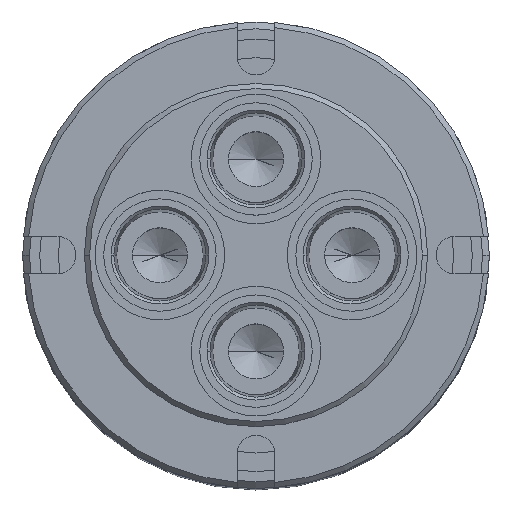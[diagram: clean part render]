
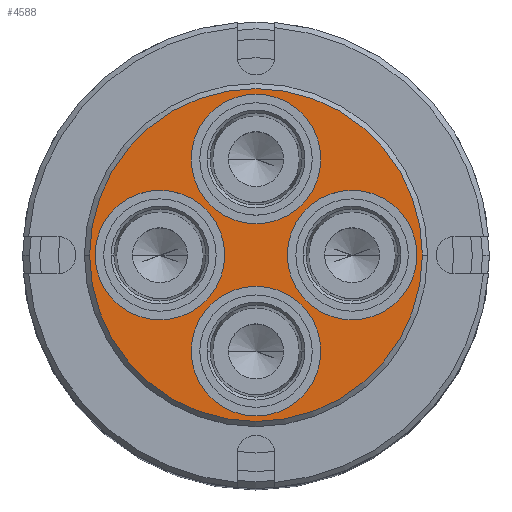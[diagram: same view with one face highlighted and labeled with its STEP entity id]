
A CAD part, top view. The second image highlights one B-rep face of the part: STEP entity #4588.
In plain terms, the highlighted planar face has unit normal (0, 0, 1).
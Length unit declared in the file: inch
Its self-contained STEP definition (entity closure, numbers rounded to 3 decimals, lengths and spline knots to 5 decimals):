
#26 = EDGE_LOOP ( 'NONE', ( #2220, #2219 ) ) ;
#27 = EDGE_LOOP ( 'NONE', ( #2218, #2217 ) ) ;
#28 = EDGE_LOOP ( 'NONE', ( #2224, #2223 ) ) ;
#30 = EDGE_LOOP ( 'NONE', ( #2226, #2225 ) ) ;
#31 = EDGE_LOOP ( 'NONE', ( #2222, #2221 ) ) ;
#611 = CARTESIAN_POINT ( 'NONE',  ( 0.59, 0.875, 0. ) ) ;
#612 = CARTESIAN_POINT ( 'NONE',  ( -0.59, 0.875, 0. ) ) ;
#613 = CARTESIAN_POINT ( 'NONE',  ( -1.5155, 0., 0. ) ) ;
#614 = CARTESIAN_POINT ( 'NONE',  ( 1.5155, 0., 0. ) ) ;
#630 = CARTESIAN_POINT ( 'NONE',  ( 1.465, 0., 0. ) ) ;
#631 = CARTESIAN_POINT ( 'NONE',  ( 0.285, 0., 0. ) ) ;
#649 = CARTESIAN_POINT ( 'NONE',  ( 0.59, -0.875, 0. ) ) ;
#650 = CARTESIAN_POINT ( 'NONE',  ( -0.59, -0.875, 0. ) ) ;
#668 = CARTESIAN_POINT ( 'NONE',  ( -0.285, 0., 0. ) ) ;
#669 = CARTESIAN_POINT ( 'NONE',  ( -1.465, 0., 0. ) ) ;
#770 = CIRCLE ( 'NONE', #775, 0.59 ) ;
#775 = AXIS2_PLACEMENT_3D ( 'NONE', #6758, #6759, #6760 ) ;
#781 = CIRCLE ( 'NONE', #784, 1.5155 ) ;
#784 = AXIS2_PLACEMENT_3D ( 'NONE', #6776, #6777, #6778 ) ;
#824 = CIRCLE ( 'NONE', #832, 0.59 ) ;
#832 = AXIS2_PLACEMENT_3D ( 'NONE', #3183, #3184, #3185 ) ;
#940 = AXIS2_PLACEMENT_3D ( 'NONE', #5115, #5116, #5117 ) ;
#1122 = CIRCLE ( 'NONE', #1124, 0.59 ) ;
#1124 = AXIS2_PLACEMENT_3D ( 'NONE', #6434, #6435, #6436 ) ;
#1329 = CARTESIAN_POINT ( 'NONE',  ( 0., 0.875, 0. ) ) ;
#1330 = DIRECTION ( 'NONE',  ( 0., 0., 1. ) ) ;
#1331 = DIRECTION ( 'NONE',  ( 1., 0., 0. ) ) ;
#1476 = CARTESIAN_POINT ( 'NONE',  ( 0., 0.875, 0. ) ) ;
#1477 = DIRECTION ( 'NONE',  ( 0., 0., 1. ) ) ;
#1478 = DIRECTION ( 'NONE',  ( 1., 0., 0. ) ) ;
#1808 = VERTEX_POINT ( 'NONE', #611 ) ;
#1809 = VERTEX_POINT ( 'NONE', #612 ) ;
#1810 = VERTEX_POINT ( 'NONE', #613 ) ;
#1811 = VERTEX_POINT ( 'NONE', #614 ) ;
#1827 = VERTEX_POINT ( 'NONE', #630 ) ;
#1828 = VERTEX_POINT ( 'NONE', #631 ) ;
#1846 = VERTEX_POINT ( 'NONE', #649 ) ;
#1847 = VERTEX_POINT ( 'NONE', #650 ) ;
#1865 = VERTEX_POINT ( 'NONE', #668 ) ;
#1866 = VERTEX_POINT ( 'NONE', #669 ) ;
#2217 = ORIENTED_EDGE ( 'NONE', *, *, #4794, .F. ) ;
#2218 = ORIENTED_EDGE ( 'NONE', *, *, #4810, .F. ) ;
#2219 = ORIENTED_EDGE ( 'NONE', *, *, #4445, .T. ) ;
#2220 = ORIENTED_EDGE ( 'NONE', *, *, #4505, .T. ) ;
#2221 = ORIENTED_EDGE ( 'NONE', *, *, #4411, .F. ) ;
#2222 = ORIENTED_EDGE ( 'NONE', *, *, #4504, .F. ) ;
#2223 = ORIENTED_EDGE ( 'NONE', *, *, #4376, .F. ) ;
#2224 = ORIENTED_EDGE ( 'NONE', *, *, #4473, .F. ) ;
#2225 = ORIENTED_EDGE ( 'NONE', *, *, #4359, .F. ) ;
#2226 = ORIENTED_EDGE ( 'NONE', *, *, #4440, .F. ) ;
#3183 = CARTESIAN_POINT ( 'NONE',  ( 0., -0.875, 0. ) ) ;
#3184 = DIRECTION ( 'NONE',  ( 0., 0., 1. ) ) ;
#3185 = DIRECTION ( 'NONE',  ( -1., 0., 0. ) ) ;
#3384 = CARTESIAN_POINT ( 'NONE',  ( 0.875, 0., 0. ) ) ;
#3385 = DIRECTION ( 'NONE',  ( 0., 0., 1. ) ) ;
#3386 = DIRECTION ( 'NONE',  ( 0., -1., 0. ) ) ;
#3853 = AXIS2_PLACEMENT_3D ( 'NONE', #6631, #6632, #6633 ) ;
#3854 = CIRCLE ( 'NONE', #3853, 0.59 ) ;
#4065 = CARTESIAN_POINT ( 'NONE',  ( -0.875, 0., 0. ) ) ;
#4066 = DIRECTION ( 'NONE',  ( 0., 0., 1. ) ) ;
#4067 = DIRECTION ( 'NONE',  ( 0., 1., 0. ) ) ;
#4153 = CIRCLE ( 'NONE', #4155, 0.59 ) ;
#4155 = AXIS2_PLACEMENT_3D ( 'NONE', #1329, #1330, #1331 ) ;
#4173 = CIRCLE ( 'NONE', #4175, 0.59 ) ;
#4175 = AXIS2_PLACEMENT_3D ( 'NONE', #1476, #1477, #1478 ) ;
#4359 = EDGE_CURVE ( 'NONE', #1866, #1865, #4922, .T. ) ;
#4376 = EDGE_CURVE ( 'NONE', #1847, #1846, #1122, .T. ) ;
#4411 = EDGE_CURVE ( 'NONE', #1828, #1827, #3854, .T. ) ;
#4440 = EDGE_CURVE ( 'NONE', #1865, #1866, #770, .T. ) ;
#4445 = EDGE_CURVE ( 'NONE', #1811, #1810, #781, .T. ) ;
#4473 = EDGE_CURVE ( 'NONE', #1846, #1847, #824, .T. ) ;
#4504 = EDGE_CURVE ( 'NONE', #1827, #1828, #4945, .T. ) ;
#4505 = EDGE_CURVE ( 'NONE', #1810, #1811, #4951, .T. ) ;
#4588 = ADVANCED_FACE ( 'NONE', ( #5097, #5099, #5101, #5103, #5096 ), #5098, .F. ) ;
#4794 = EDGE_CURVE ( 'NONE', #1809, #1808, #4153, .T. ) ;
#4810 = EDGE_CURVE ( 'NONE', #1808, #1809, #4173, .T. ) ;
#4921 = AXIS2_PLACEMENT_3D ( 'NONE', #4065, #4066, #4067 ) ;
#4922 = CIRCLE ( 'NONE', #4921, 0.59 ) ;
#4945 = CIRCLE ( 'NONE', #4956, 0.59 ) ;
#4951 = CIRCLE ( 'NONE', #4958, 1.5155 ) ;
#4956 = AXIS2_PLACEMENT_3D ( 'NONE', #3384, #3385, #3386 ) ;
#4958 = AXIS2_PLACEMENT_3D ( 'NONE', #5592, #5593, #5594 ) ;
#5096 = FACE_BOUND ( 'NONE', #27, .T. ) ;
#5097 = FACE_BOUND ( 'NONE', #30, .T. ) ;
#5098 = PLANE ( 'NONE',  #940 ) ;
#5099 = FACE_BOUND ( 'NONE', #28, .T. ) ;
#5101 = FACE_BOUND ( 'NONE', #31, .T. ) ;
#5103 = FACE_OUTER_BOUND ( 'NONE', #26, .T. ) ;
#5115 = CARTESIAN_POINT ( 'NONE',  ( 0., 0., 0. ) ) ;
#5116 = DIRECTION ( 'NONE',  ( 0., 0., -1. ) ) ;
#5117 = DIRECTION ( 'NONE',  ( -1., 0., 0. ) ) ;
#5592 = CARTESIAN_POINT ( 'NONE',  ( 0., 0., 0. ) ) ;
#5593 = DIRECTION ( 'NONE',  ( 0., 0., 1. ) ) ;
#5594 = DIRECTION ( 'NONE',  ( -1., 0., 0. ) ) ;
#6434 = CARTESIAN_POINT ( 'NONE',  ( 0., -0.875, 0. ) ) ;
#6435 = DIRECTION ( 'NONE',  ( 0., 0., 1. ) ) ;
#6436 = DIRECTION ( 'NONE',  ( -1., 0., 0. ) ) ;
#6631 = CARTESIAN_POINT ( 'NONE',  ( 0.875, 0., 0. ) ) ;
#6632 = DIRECTION ( 'NONE',  ( 0., 0., 1. ) ) ;
#6633 = DIRECTION ( 'NONE',  ( 0., -1., 0. ) ) ;
#6758 = CARTESIAN_POINT ( 'NONE',  ( -0.875, 0., 0. ) ) ;
#6759 = DIRECTION ( 'NONE',  ( 0., 0., 1. ) ) ;
#6760 = DIRECTION ( 'NONE',  ( 0., 1., 0. ) ) ;
#6776 = CARTESIAN_POINT ( 'NONE',  ( 0., 0., 0. ) ) ;
#6777 = DIRECTION ( 'NONE',  ( 0., 0., 1. ) ) ;
#6778 = DIRECTION ( 'NONE',  ( -1., 0., 0. ) ) ;
